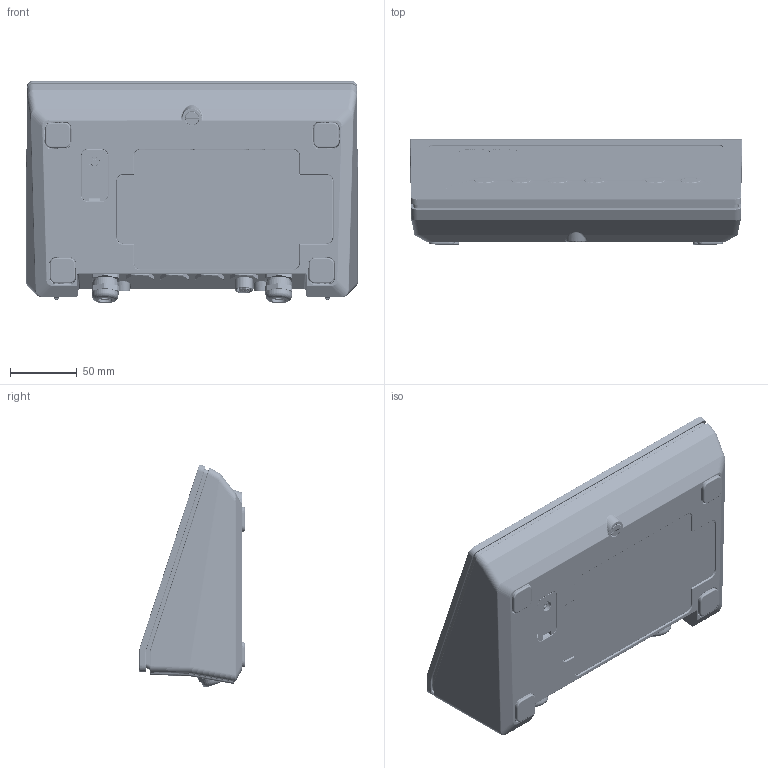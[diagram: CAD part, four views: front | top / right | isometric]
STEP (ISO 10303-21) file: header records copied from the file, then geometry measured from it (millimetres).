
FILE_DESCRIPTION((''),'2;1');
FILE_NAME('22023021_X','2012-07-30T',('Liebchen-1'),(''),'PRO/ENGINEER BY PARAMETRIC TECHNOLOGY CORPORATION, 2010160','PRO/ENGINEER BY PARAMETRIC TECHNOLOGY CORPORATION, 2010160','');
FILE_SCHEMA(('CONFIG_CONTROL_DESIGN'));
Products named in the file (1): 22023021_X
Bounding box: 248.73 x 78.95 x 167 mm (x, y, z)
Surface area: 398008.4 mm2 (no closed solid volume)
Topology: 0 solids, 188 shells, 5822 faces, 16656 edges, 10641 vertices
Faces by surface type: cylinder 1950, bspline 1697, plane 1335, cone 391, torus 255, sphere 154, extrusion 40
Entity records: 324785 total; most frequent: CARTESIAN_POINT 148441, ORIENTED_EDGE 28433, DIRECTION 24718, EDGE_CURVE 16601, VERTEX_POINT 10641, AXIS2_PLACEMENT_3D 8833, VECTOR 7052, LINE 7012
